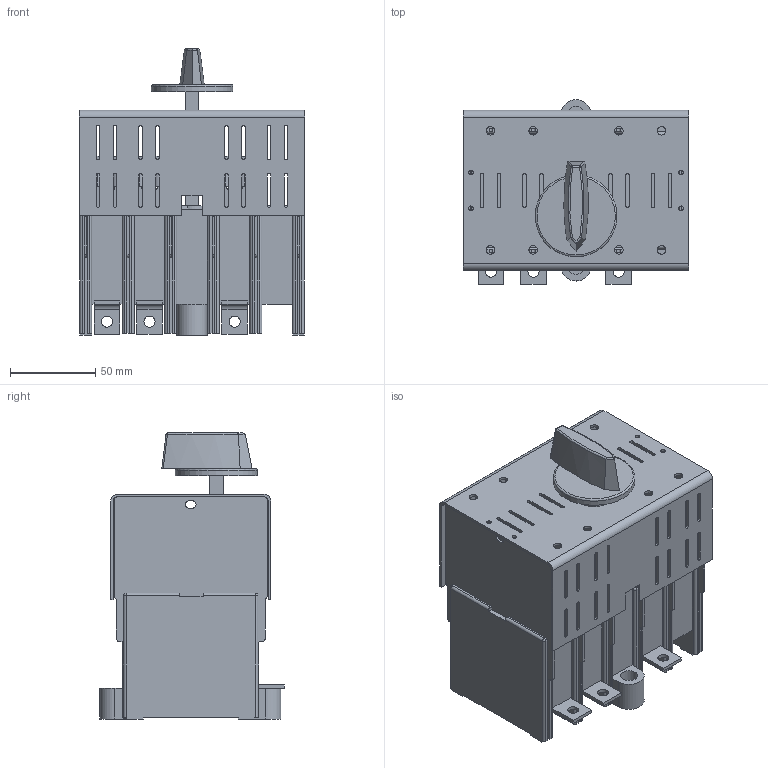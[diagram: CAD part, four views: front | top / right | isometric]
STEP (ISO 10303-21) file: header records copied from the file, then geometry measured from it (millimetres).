
FILE_DESCRIPTION(/* description */ (''),/* implementation_level */ '2;1');
FILE_NAME(/* name */ 'RAB 000 P3 A-R.stp',/* time_stamp */ '2021-08-19T09:40:21+02:00',/* author */ (''),/* organization */ (''),/* preprocessor_version */ 'ST-DEVELOPER v18.1',/* originating_system */ 'SIEMENS PLM Software NX 1965',/* authorisation */ '');
FILE_SCHEMA (('AUTOMOTIVE_DESIGN { 1 0 10303 214 3 1 1 1 }'));
Length unit declared in the file: millimetre
Products named in the file (1): RAB 000 P3 A-R_stp
Bounding box: 132.5 x 108.51 x 168 mm (x, y, z)
Volume: 754854.6 mm3; surface area: 213109.7 mm2
Topology: 1 solids, 1 shells, 1031 faces, 2918 edges, 1869 vertices
Faces by surface type: plane 657, cylinder 341, sphere 25, bspline 7, torus 1
Full cylindrical faces by diameter (mm): 2.7 x4, 5 x8, 5.8 x2, 6.5 x6, 10 x2, 20 x1, 48 x1
Entity records: 33283 total; most frequent: CARTESIAN_POINT 6242, ORIENTED_EDGE 5710, DIRECTION 5481, EDGE_CURVE 2855, LINE 2085, VECTOR 2085, VERTEX_POINT 1857, AXIS2_PLACEMENT_3D 1698
